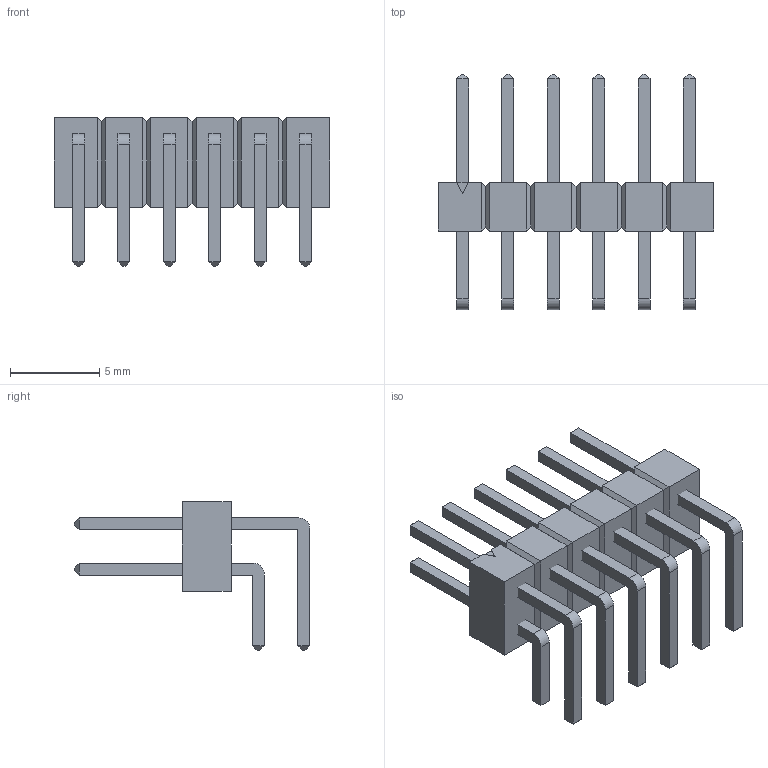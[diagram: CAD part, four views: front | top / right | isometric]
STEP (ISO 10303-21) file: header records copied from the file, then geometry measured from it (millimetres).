
FILE_DESCRIPTION(('FreeCAD Model'),'2;1');
FILE_NAME('/var/www/3D/0T/19282878.1.1.stp','2024-11-28T16:24:27',( 'Author'),(''),'Open CASCADE STEP processor 6.9','FreeCAD','Unknown' );
FILE_SCHEMA(('AUTOMOTIVE_DESIGN { 1 0 10303 214 1 1 1 1 }'));
Length unit declared in the file: millimetre
Products named in the file (4): ASSEMBLY; Body; LeadsArray
Assembly tree (3 placements, depth 2):
  ASSEMBLY
    Body
    LeadsArray
    LeadsArray
Bounding box: 15.44 x 13.18 x 8.33 mm (x, y, z)
Volume: 300.4 mm3; surface area: 831.9 mm2
Topology: 13 solids, 13 shells, 285 faces, 621 edges, 362 vertices
Faces by surface type: plane 261, cylinder 24
Entity records: 15682 total; most frequent: CARTESIAN_POINT 2738, DIRECTION 2385, LINE 1687, VECTOR 1687, ORIENTED_EDGE 1242, PCURVE 1242, DEFINITIONAL_REPRESENTATION 1242, EDGE_CURVE 621
